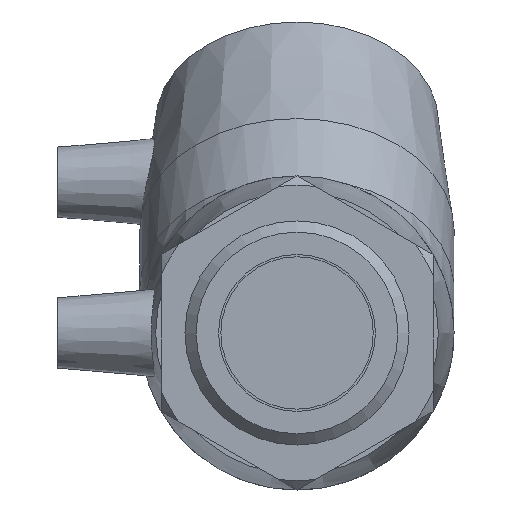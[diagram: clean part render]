
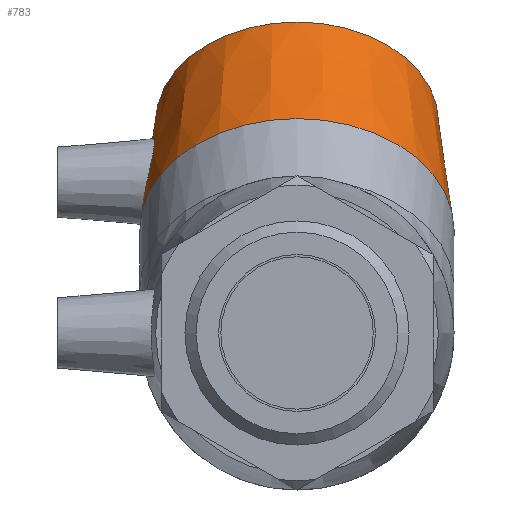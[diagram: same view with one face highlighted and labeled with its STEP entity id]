
A CAD part, left-side view. The second image highlights one B-rep face of the part: STEP entity #783.
In plain terms, the highlighted conical face has half-angle 5.885 degrees and reference radius 31.825 mm.
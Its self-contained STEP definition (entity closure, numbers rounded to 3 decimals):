
#15=B_SPLINE_CURVE_WITH_KNOTS('',3,(#1400,#1401,#1402,#1403,#1404,#1405,
#1406,#1407,#1408,#1409,#1410,#1411,#1412,#1413,#1414,#1415,#1416,#1417,
#1418,#1419,#1420,#1421,#1422,#1423,#1424,#1425,#1426,#1427,#1428,#1429,
#1430,#1431,#1432,#1433),.UNSPECIFIED.,.T.,.F.,(4,2,2,2,2,2,2,2,2,2,2,2,
2,2,2,2,4),(0.,0.34,0.68,1.023,1.365,
1.708,2.05,2.39,2.731,3.094,
3.457,3.813,4.169,4.525,4.881,
5.244,5.608),.UNSPECIFIED.);
#141=FACE_BOUND('',#285,.T.);
#142=FACE_BOUND('',#286,.T.);
#202=FACE_OUTER_BOUND('',#284,.T.);
#284=EDGE_LOOP('',(#689));
#285=EDGE_LOOP('',(#690));
#286=EDGE_LOOP('',(#691));
#347=CIRCLE('',#874,33.5);
#351=CIRCLE('',#885,30.15);
#420=VERTEX_POINT('',#1395);
#421=VERTEX_POINT('',#1399);
#425=VERTEX_POINT('',#1445);
#513=EDGE_CURVE('',#420,#420,#347,.T.);
#515=EDGE_CURVE('',#421,#421,#15,.T.);
#519=EDGE_CURVE('',#425,#425,#351,.T.);
#689=ORIENTED_EDGE('',*,*,#513,.F.);
#690=ORIENTED_EDGE('',*,*,#515,.T.);
#691=ORIENTED_EDGE('',*,*,#519,.T.);
#733=CONICAL_SURFACE('',#886,31.825,5.885);
#783=ADVANCED_FACE('',(#202,#141,#142),#733,.T.);
#874=AXIS2_PLACEMENT_3D('',#1396,#1076,#1077);
#885=AXIS2_PLACEMENT_3D('',#1446,#1098,#1099);
#886=AXIS2_PLACEMENT_3D('',#1447,#1100,#1101);
#1076=DIRECTION('center_axis',(-0.707,0.,
-0.707));
#1077=DIRECTION('ref_axis',(-0.707,0.,0.707));
#1098=DIRECTION('center_axis',(-0.707,0.,
-0.707));
#1099=DIRECTION('ref_axis',(-0.707,0.,0.707));
#1100=DIRECTION('center_axis',(-0.707,0.,
-0.707));
#1101=DIRECTION('ref_axis',(0.,1.,0.));
#1395=CARTESIAN_POINT('',(22.036,33.5,22.036));
#1396=CARTESIAN_POINT('Origin',(22.036,0.,22.036));
#1399=CARTESIAN_POINT('',(38.986,30.611,25.866));
#1400=CARTESIAN_POINT('Ctrl Pts',(38.986,30.611,25.866));
#1401=CARTESIAN_POINT('Ctrl Pts',(39.76,30.499,26.688));
#1402=CARTESIAN_POINT('Ctrl Pts',(40.423,30.452,27.72));
#1403=CARTESIAN_POINT('Ctrl Pts',(41.282,30.491,29.966));
#1404=CARTESIAN_POINT('Ctrl Pts',(41.476,30.572,31.18));
#1405=CARTESIAN_POINT('Ctrl Pts',(41.427,30.752,33.448));
#1406=CARTESIAN_POINT('Ctrl Pts',(41.178,30.863,34.657));
#1407=CARTESIAN_POINT('Ctrl Pts',(40.223,31.023,36.885));
#1408=CARTESIAN_POINT('Ctrl Pts',(39.517,31.069,37.902));
#1409=CARTESIAN_POINT('Ctrl Pts',(37.902,31.069,39.517));
#1410=CARTESIAN_POINT('Ctrl Pts',(36.885,31.023,40.223));
#1411=CARTESIAN_POINT('Ctrl Pts',(34.657,30.863,41.178));
#1412=CARTESIAN_POINT('Ctrl Pts',(33.448,30.752,41.427));
#1413=CARTESIAN_POINT('Ctrl Pts',(31.18,30.572,41.476));
#1414=CARTESIAN_POINT('Ctrl Pts',(29.966,30.491,41.282));
#1415=CARTESIAN_POINT('Ctrl Pts',(27.72,30.452,40.423));
#1416=CARTESIAN_POINT('Ctrl Pts',(26.688,30.499,39.76));
#1417=CARTESIAN_POINT('Ctrl Pts',(24.989,30.729,38.159));
#1418=CARTESIAN_POINT('Ctrl Pts',(24.241,30.936,37.104));
#1419=CARTESIAN_POINT('Ctrl Pts',(23.253,31.445,34.791));
#1420=CARTESIAN_POINT('Ctrl Pts',(23.013,31.743,33.533));
#1421=CARTESIAN_POINT('Ctrl Pts',(23.013,32.258,31.192));
#1422=CARTESIAN_POINT('Ctrl Pts',(23.244,32.512,29.95));
#1423=CARTESIAN_POINT('Ctrl Pts',(24.195,32.863,27.65));
#1424=CARTESIAN_POINT('Ctrl Pts',(24.915,32.958,26.593));
#1425=CARTESIAN_POINT('Ctrl Pts',(26.593,32.958,24.915));
#1426=CARTESIAN_POINT('Ctrl Pts',(27.65,32.863,24.195));
#1427=CARTESIAN_POINT('Ctrl Pts',(29.95,32.512,23.244));
#1428=CARTESIAN_POINT('Ctrl Pts',(31.192,32.258,23.013));
#1429=CARTESIAN_POINT('Ctrl Pts',(33.533,31.743,23.013));
#1430=CARTESIAN_POINT('Ctrl Pts',(34.791,31.445,23.253));
#1431=CARTESIAN_POINT('Ctrl Pts',(37.104,30.936,24.241));
#1432=CARTESIAN_POINT('Ctrl Pts',(38.159,30.729,24.989));
#1433=CARTESIAN_POINT('Ctrl Pts',(38.986,30.611,25.866));
#1445=CARTESIAN_POINT('',(45.017,30.15,45.017));
#1446=CARTESIAN_POINT('Origin',(45.017,0.,45.017));
#1447=CARTESIAN_POINT('Origin',(33.527,0.,
33.527));
